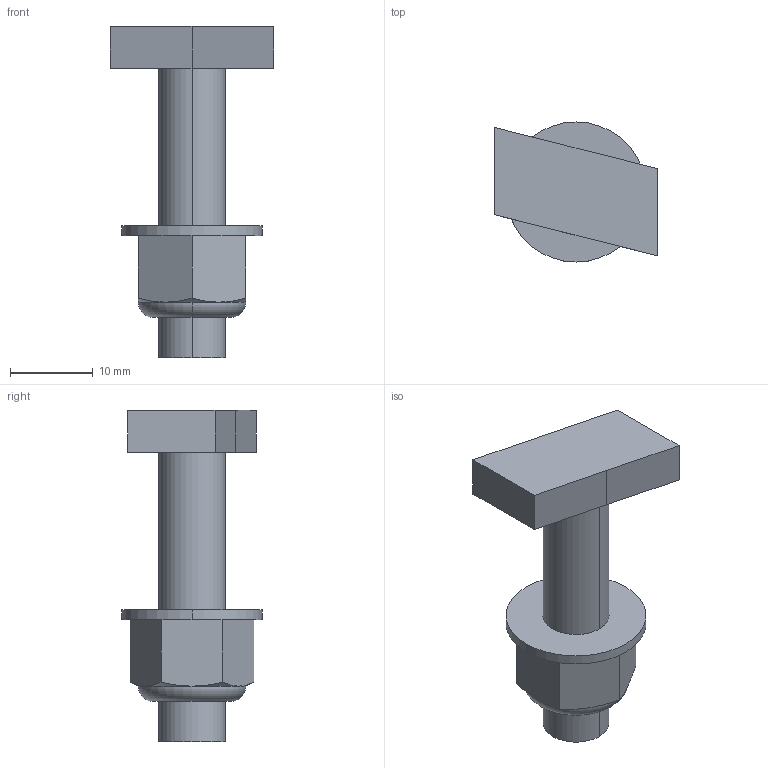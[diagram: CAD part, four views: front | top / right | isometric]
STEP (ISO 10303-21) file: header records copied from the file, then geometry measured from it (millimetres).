
FILE_DESCRIPTION((''),'2;1');
FILE_NAME('203447_ASM','2016-08-16T',('adam.dellomodarme'),(''),'PRO/ENGINEER BY PARAMETRIC TECHNOLOGY CORPORATION, 2012420','PRO/ENGINEER BY PARAMETRIC TECHNOLOGY CORPORATION, 2012420','');
FILE_SCHEMA(('CONFIG_CONTROL_DESIGN'));
Length unit declared in the file: inch
Products named in the file (3): 834-018; 990812M; 203447_ASM
Assembly tree (2 placements, depth 2):
  203447_ASM
    834-018
    990812M
Bounding box: 19.76 x 16.97 x 40.08 mm (x, y, z)
Volume: 3933.5 mm3; surface area: 3089.2 mm2
Topology: 3 solids, 3 shells, 47 faces, 151 edges, 114 vertices
Faces by surface type: plane 22, cylinder 12, cone 7, torus 6
Entity records: 2094 total; most frequent: CARTESIAN_POINT 666, ORIENTED_EDGE 302, DIRECTION 257, EDGE_CURVE 151, VERTEX_POINT 114, AXIS2_PLACEMENT_3D 96, VECTOR 65, LINE 65
